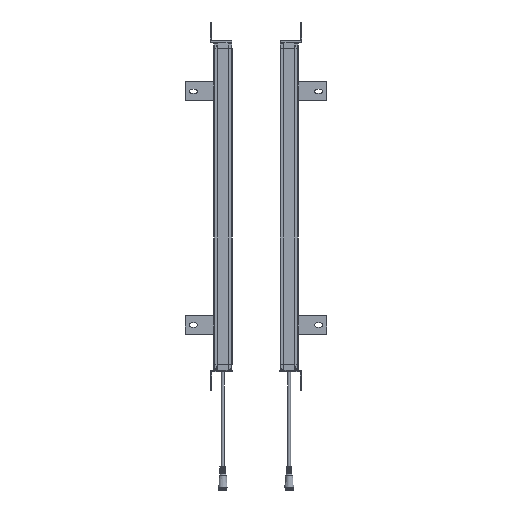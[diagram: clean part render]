
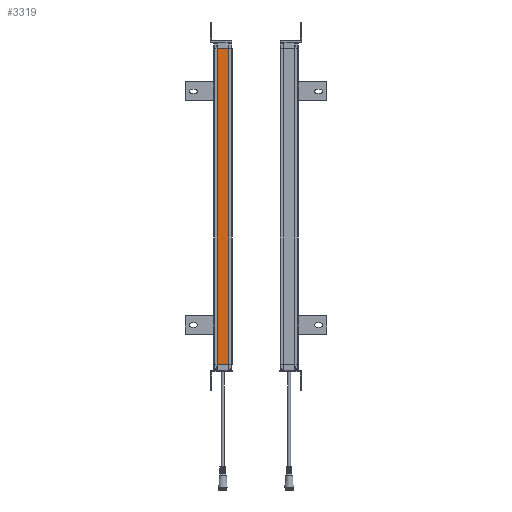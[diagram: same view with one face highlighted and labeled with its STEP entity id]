
A CAD part, left-side view. The second image highlights one B-rep face of the part: STEP entity #3319.
In plain terms, the highlighted planar face has unit normal (-1, 0, 0).
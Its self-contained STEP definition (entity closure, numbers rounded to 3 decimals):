
#1795=FACE_OUTER_BOUND('',#5986,.T.);
#3319=ADVANCED_FACE('',(#1795),#4749,.T.);
#4749=PLANE('',#29857);
#5986=EDGE_LOOP('',(#9184,#9185,#9186,#9187));
#9184=ORIENTED_EDGE('',*,*,#19383,.F.);
#9185=ORIENTED_EDGE('',*,*,#19072,.T.);
#9186=ORIENTED_EDGE('',*,*,#19385,.T.);
#9187=ORIENTED_EDGE('',*,*,#19386,.F.);
#16145=VERTEX_POINT('',#43699);
#16146=VERTEX_POINT('',#43701);
#16357=VERTEX_POINT('',#44323);
#16358=VERTEX_POINT('',#44327);
#19072=EDGE_CURVE('',#16146,#16145,#24663,.T.);
#19383=EDGE_CURVE('',#16146,#16357,#24884,.T.);
#19385=EDGE_CURVE('',#16145,#16358,#24886,.T.);
#19386=EDGE_CURVE('',#16357,#16358,#24887,.T.);
#24663=LINE('',#43700,#27142);
#24884=LINE('',#44322,#27363);
#24886=LINE('',#44326,#27365);
#24887=LINE('',#44328,#27366);
#27142=VECTOR('',#33404,1.);
#27363=VECTOR('',#34005,1.);
#27365=VECTOR('',#34009,1.);
#27366=VECTOR('',#34010,1.);
#29857=AXIS2_PLACEMENT_3D('',#44329,#34011,#34012);
#33404=DIRECTION('',(0.,1.,0.));
#34005=DIRECTION('',(0.,0.,-1.));
#34009=DIRECTION('',(0.,0.,-1.));
#34010=DIRECTION('',(0.,1.,0.));
#34011=DIRECTION('',(-1.,0.,0.));
#34012=DIRECTION('',(0.,-1.,0.));
#43699=CARTESIAN_POINT('',(50.4,-5.5,458.059));
#43700=CARTESIAN_POINT('',(50.4,-5.5,458.059));
#43701=CARTESIAN_POINT('',(50.4,-23.5,458.059));
#44322=CARTESIAN_POINT('',(50.4,-23.5,103.059));
#44323=CARTESIAN_POINT('',(50.4,-23.5,-41.941));
#44326=CARTESIAN_POINT('',(50.4,-5.5,103.059));
#44327=CARTESIAN_POINT('',(50.4,-5.5,-41.941));
#44328=CARTESIAN_POINT('',(50.4,-23.5,-41.941));
#44329=CARTESIAN_POINT('',(50.4,-5.5,-61.941));
